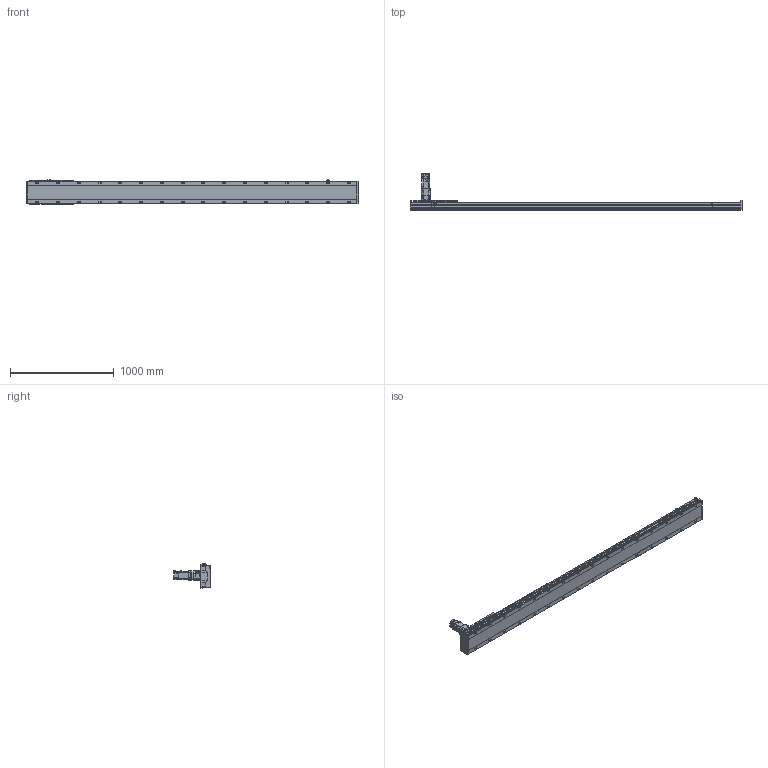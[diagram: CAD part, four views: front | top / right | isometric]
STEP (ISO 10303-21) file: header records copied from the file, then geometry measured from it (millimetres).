
FILE_DESCRIPTION(/* description */ ('STEP AP214'),/* implementation_level */ '2;1');
FILE_NAME(/* name */ 'SHS22A-L13-S2700-BC-T75-C1-N(0)',/* time_stamp */ '2022-06-15T02:27:41+02:00',/* author */ ('License CC BY-ND 4.0'),/* organization */ ('CADENAS'),/* preprocessor_version */ 'ST-DEVELOPER v18.102',/* originating_system */ 'PARTsolutions',/* authorisation */ ' ');
FILE_SCHEMA (('AUTOMOTIVE_DESIGN {1 0 10303 214 3 1 1}'));
Length unit declared in the file: millimetre
Products named in the file (7): SHS22A-L13-S2700-BC-T75-C1-N(0); PSC140-sensor; SHS22A-S2700_body2; T75-p1; SHS22A-S2700_body3; SHS22A-S2700_slider; SHS22A-L13-S2700-BC-T75-C1(0)_body
Assembly tree (13 placements, depth 2):
  SHS22A-L13-S2700-BC-T75-C1-N(0)
    PSC140-sensor  x3
    SHS22A-S2700_body2  x6
    T75-p1
    SHS22A-S2700_body3
    SHS22A-S2700_slider
    SHS22A-L13-S2700-BC-T75-C1(0)_body
Bounding box: 3194 x 350.8 x 238.4 mm (x, y, z)
Volume: 35178292.7 mm3; surface area: 3638745.3 mm2
Topology: 13 solids, 13 shells, 1893 faces, 4863 edges, 3184 vertices
Faces by surface type: plane 1344, cylinder 443, cone 97, torus 9
Full cylindrical faces by diameter (mm): 2.8 x3, 4.2 x2, 4.6 x3, 4.917 x4, 5 x4, 5.6 x24, 6 x31, 6.6 x24, 6.647 x8, 6.8 x9, 7.75 x6, 8 x3, 8.376 x32, 8.5 x32, 10 x4, 11 x4, 12 x24, 14 x32, 22 x1, 24.1 x1, 28 x1, 28.2 x1, 28.8 x1, 48.542 x1, 68 x1, 70 x1, 78 x1, 80 x2
Entity records: 31594 total; most frequent: CARTESIAN_POINT 5669, DIRECTION 5351, ORIENTED_EDGE 4836, EDGE_CURVE 2418, AXIS2_PLACEMENT_3D 1888, VERTEX_POINT 1742, FACE_BOUND 1656, EDGE_LOOP 1655
